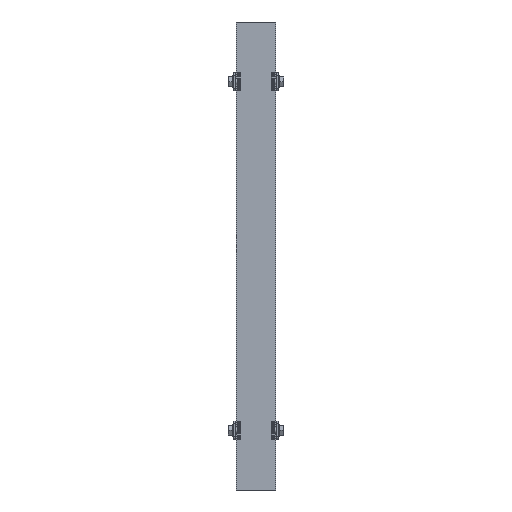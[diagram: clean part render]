
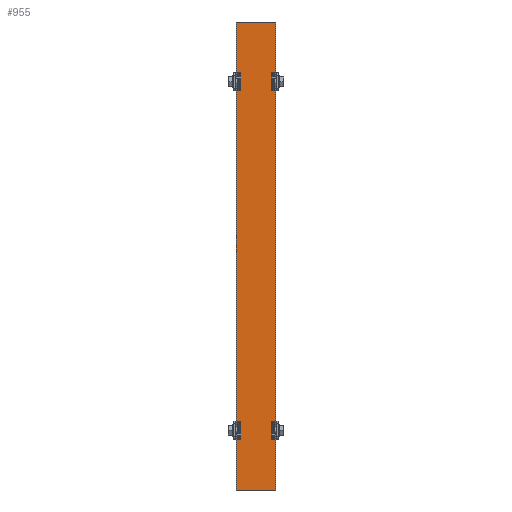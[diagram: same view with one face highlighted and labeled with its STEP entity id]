
A CAD part, front view. The second image highlights one B-rep face of the part: STEP entity #955.
In plain terms, the highlighted planar face has unit normal (0, -1, 0).
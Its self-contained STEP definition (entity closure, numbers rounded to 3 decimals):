
#82=DIRECTION('',(0.,0.,1.));
#83=VECTOR('',#82,392.);
#84=CARTESIAN_POINT('',(-16.6,0.,-196.));
#85=LINE('',#84,#83);
#89=DIRECTION('',(1.,0.,0.));
#90=VECTOR('',#89,33.2);
#91=CARTESIAN_POINT('',(-16.6,0.,196.));
#92=LINE('',#91,#90);
#96=DIRECTION('',(0.,0.,-1.));
#97=VECTOR('',#96,392.);
#98=CARTESIAN_POINT('',(16.6,0.,196.));
#99=LINE('',#98,#97);
#103=DIRECTION('',(-1.,0.,0.));
#104=VECTOR('',#103,33.2);
#105=CARTESIAN_POINT('',(16.6,0.,-196.));
#106=LINE('',#105,#104);
#804=CARTESIAN_POINT('',(-16.6,0.,-196.));
#805=CARTESIAN_POINT('',(-16.6,0.,196.));
#806=VERTEX_POINT('',#804);
#807=VERTEX_POINT('',#805);
#808=CARTESIAN_POINT('',(16.6,0.,196.));
#809=VERTEX_POINT('',#808);
#810=CARTESIAN_POINT('',(16.6,0.,-196.));
#811=VERTEX_POINT('',#810);
#940=CARTESIAN_POINT('',(0.,0.,0.));
#941=DIRECTION('',(0.,1.,0.));
#942=DIRECTION('',(1.,0.,0.));
#943=AXIS2_PLACEMENT_3D('',#940,#941,#942);
#944=PLANE('',#943);
#946=ORIENTED_EDGE('',*,*,#945,.T.);
#948=ORIENTED_EDGE('',*,*,#947,.T.);
#950=ORIENTED_EDGE('',*,*,#949,.T.);
#952=ORIENTED_EDGE('',*,*,#951,.T.);
#953=EDGE_LOOP('',(#946,#948,#950,#952));
#954=FACE_OUTER_BOUND('',#953,.F.);
#955=ADVANCED_FACE('',(#954),#944,.F.);
#945=EDGE_CURVE('',#806,#807,#85,.T.);
#947=EDGE_CURVE('',#807,#809,#92,.T.);
#949=EDGE_CURVE('',#809,#811,#99,.T.);
#951=EDGE_CURVE('',#811,#806,#106,.T.);
